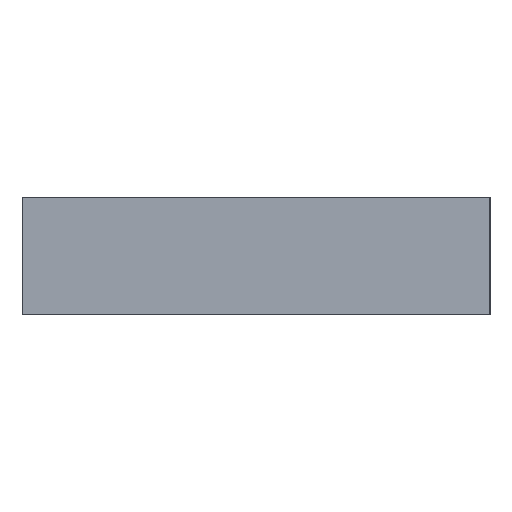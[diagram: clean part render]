
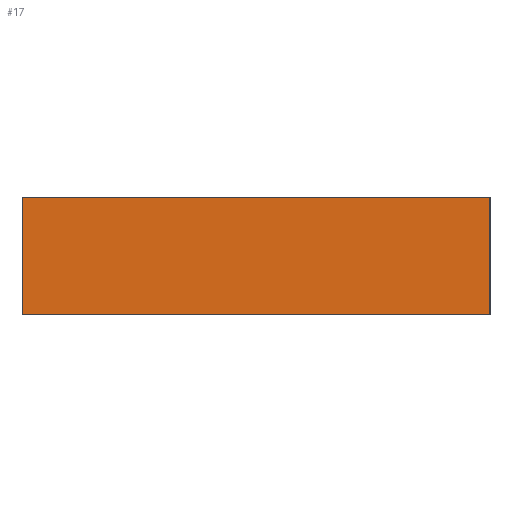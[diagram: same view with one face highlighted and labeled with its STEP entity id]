
A CAD part, left-side view. The second image highlights one B-rep face of the part: STEP entity #17.
In plain terms, the highlighted planar face has unit normal (-1, 0, 0).
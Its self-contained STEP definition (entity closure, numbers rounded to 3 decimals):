
#17 = ADVANCED_FACE('',(#18),#32,.F.);
#18 = FACE_BOUND('',#19,.F.);
#19 = EDGE_LOOP('',(#20,#55,#83,#111));
#20 = ORIENTED_EDGE('',*,*,#21,.F.);
#21 = EDGE_CURVE('',#22,#24,#26,.T.);
#22 = VERTEX_POINT('',#23);
#23 = CARTESIAN_POINT('',(-50.,-30.,0.));
#24 = VERTEX_POINT('',#25);
#25 = CARTESIAN_POINT('',(-50.,-30.,15.));
#26 = SURFACE_CURVE('',#27,(#31,#43),.PCURVE_S1.);
#27 = LINE('',#28,#29);
#28 = CARTESIAN_POINT('',(-50.,-30.,0.));
#29 = VECTOR('',#30,1.);
#30 = DIRECTION('',(0.,0.,1.));
#31 = PCURVE('',#32,#37);
#32 = PLANE('',#33);
#33 = AXIS2_PLACEMENT_3D('',#34,#35,#36);
#34 = CARTESIAN_POINT('',(-50.,-30.,0.));
#35 = DIRECTION('',(1.,0.,0.));
#36 = DIRECTION('',(0.,0.,1.));
#37 = DEFINITIONAL_REPRESENTATION('',(#38),#42);
#38 = LINE('',#39,#40);
#39 = CARTESIAN_POINT('',(0.,0.));
#40 = VECTOR('',#41,1.);
#41 = DIRECTION('',(1.,0.));
#42 = ( GEOMETRIC_REPRESENTATION_CONTEXT(2) 
PARAMETRIC_REPRESENTATION_CONTEXT() REPRESENTATION_CONTEXT('2D SPACE',''
  ) );
#43 = PCURVE('',#44,#49);
#44 = PLANE('',#45);
#45 = AXIS2_PLACEMENT_3D('',#46,#47,#48);
#46 = CARTESIAN_POINT('',(-50.,-30.,0.));
#47 = DIRECTION('',(0.,1.,0.));
#48 = DIRECTION('',(0.,0.,1.));
#49 = DEFINITIONAL_REPRESENTATION('',(#50),#54);
#50 = LINE('',#51,#52);
#51 = CARTESIAN_POINT('',(0.,0.));
#52 = VECTOR('',#53,1.);
#53 = DIRECTION('',(1.,0.));
#54 = ( GEOMETRIC_REPRESENTATION_CONTEXT(2) 
PARAMETRIC_REPRESENTATION_CONTEXT() REPRESENTATION_CONTEXT('2D SPACE',''
  ) );
#55 = ORIENTED_EDGE('',*,*,#56,.T.);
#56 = EDGE_CURVE('',#22,#57,#59,.T.);
#57 = VERTEX_POINT('',#58);
#58 = CARTESIAN_POINT('',(-50.,30.,0.));
#59 = SURFACE_CURVE('',#60,(#64,#71),.PCURVE_S1.);
#60 = LINE('',#61,#62);
#61 = CARTESIAN_POINT('',(-50.,-30.,0.));
#62 = VECTOR('',#63,1.);
#63 = DIRECTION('',(0.,1.,0.));
#64 = PCURVE('',#32,#65);
#65 = DEFINITIONAL_REPRESENTATION('',(#66),#70);
#66 = LINE('',#67,#68);
#67 = CARTESIAN_POINT('',(0.,0.));
#68 = VECTOR('',#69,1.);
#69 = DIRECTION('',(0.,-1.));
#70 = ( GEOMETRIC_REPRESENTATION_CONTEXT(2) 
PARAMETRIC_REPRESENTATION_CONTEXT() REPRESENTATION_CONTEXT('2D SPACE',''
  ) );
#71 = PCURVE('',#72,#77);
#72 = PLANE('',#73);
#73 = AXIS2_PLACEMENT_3D('',#74,#75,#76);
#74 = CARTESIAN_POINT('',(-50.,-30.,0.));
#75 = DIRECTION('',(0.,0.,1.));
#76 = DIRECTION('',(1.,0.,0.));
#77 = DEFINITIONAL_REPRESENTATION('',(#78),#82);
#78 = LINE('',#79,#80);
#79 = CARTESIAN_POINT('',(0.,0.));
#80 = VECTOR('',#81,1.);
#81 = DIRECTION('',(0.,1.));
#82 = ( GEOMETRIC_REPRESENTATION_CONTEXT(2) 
PARAMETRIC_REPRESENTATION_CONTEXT() REPRESENTATION_CONTEXT('2D SPACE',''
  ) );
#83 = ORIENTED_EDGE('',*,*,#84,.T.);
#84 = EDGE_CURVE('',#57,#85,#87,.T.);
#85 = VERTEX_POINT('',#86);
#86 = CARTESIAN_POINT('',(-50.,30.,15.));
#87 = SURFACE_CURVE('',#88,(#92,#99),.PCURVE_S1.);
#88 = LINE('',#89,#90);
#89 = CARTESIAN_POINT('',(-50.,30.,0.));
#90 = VECTOR('',#91,1.);
#91 = DIRECTION('',(0.,0.,1.));
#92 = PCURVE('',#32,#93);
#93 = DEFINITIONAL_REPRESENTATION('',(#94),#98);
#94 = LINE('',#95,#96);
#95 = CARTESIAN_POINT('',(0.,-60.));
#96 = VECTOR('',#97,1.);
#97 = DIRECTION('',(1.,0.));
#98 = ( GEOMETRIC_REPRESENTATION_CONTEXT(2) 
PARAMETRIC_REPRESENTATION_CONTEXT() REPRESENTATION_CONTEXT('2D SPACE',''
  ) );
#99 = PCURVE('',#100,#105);
#100 = PLANE('',#101);
#101 = AXIS2_PLACEMENT_3D('',#102,#103,#104);
#102 = CARTESIAN_POINT('',(-50.,30.,0.));
#103 = DIRECTION('',(0.,1.,0.));
#104 = DIRECTION('',(0.,0.,1.));
#105 = DEFINITIONAL_REPRESENTATION('',(#106),#110);
#106 = LINE('',#107,#108);
#107 = CARTESIAN_POINT('',(0.,0.));
#108 = VECTOR('',#109,1.);
#109 = DIRECTION('',(1.,0.));
#110 = ( GEOMETRIC_REPRESENTATION_CONTEXT(2) 
PARAMETRIC_REPRESENTATION_CONTEXT() REPRESENTATION_CONTEXT('2D SPACE',''
  ) );
#111 = ORIENTED_EDGE('',*,*,#112,.F.);
#112 = EDGE_CURVE('',#24,#85,#113,.T.);
#113 = SURFACE_CURVE('',#114,(#118,#125),.PCURVE_S1.);
#114 = LINE('',#115,#116);
#115 = CARTESIAN_POINT('',(-50.,-30.,15.));
#116 = VECTOR('',#117,1.);
#117 = DIRECTION('',(0.,1.,0.));
#118 = PCURVE('',#32,#119);
#119 = DEFINITIONAL_REPRESENTATION('',(#120),#124);
#120 = LINE('',#121,#122);
#121 = CARTESIAN_POINT('',(15.,0.));
#122 = VECTOR('',#123,1.);
#123 = DIRECTION('',(0.,-1.));
#124 = ( GEOMETRIC_REPRESENTATION_CONTEXT(2) 
PARAMETRIC_REPRESENTATION_CONTEXT() REPRESENTATION_CONTEXT('2D SPACE',''
  ) );
#125 = PCURVE('',#126,#131);
#126 = PLANE('',#127);
#127 = AXIS2_PLACEMENT_3D('',#128,#129,#130);
#128 = CARTESIAN_POINT('',(-50.,-30.,15.));
#129 = DIRECTION('',(0.,0.,1.));
#130 = DIRECTION('',(1.,0.,0.));
#131 = DEFINITIONAL_REPRESENTATION('',(#132),#136);
#132 = LINE('',#133,#134);
#133 = CARTESIAN_POINT('',(0.,0.));
#134 = VECTOR('',#135,1.);
#135 = DIRECTION('',(0.,1.));
#136 = ( GEOMETRIC_REPRESENTATION_CONTEXT(2) 
PARAMETRIC_REPRESENTATION_CONTEXT() REPRESENTATION_CONTEXT('2D SPACE',''
  ) );
